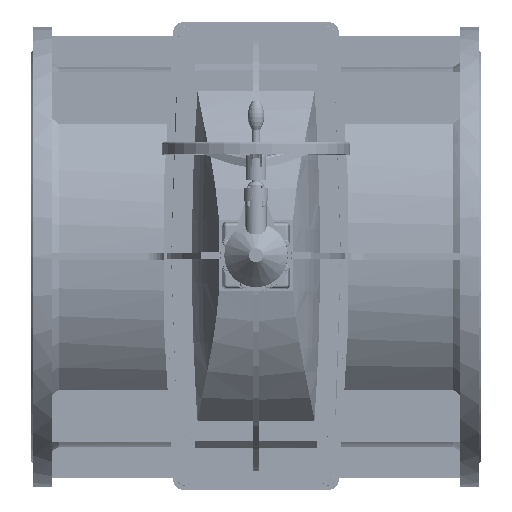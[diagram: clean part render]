
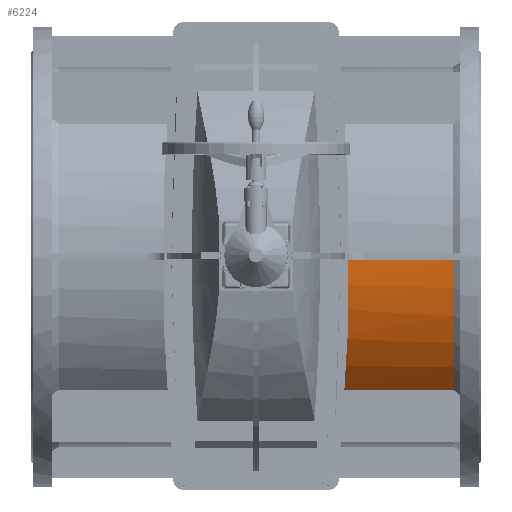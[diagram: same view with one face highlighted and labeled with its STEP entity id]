
A CAD part, top view. The second image highlights one B-rep face of the part: STEP entity #6224.
In plain terms, the highlighted cylindrical face has radius 465.5 mm (diameter 931 mm), a partial arc.
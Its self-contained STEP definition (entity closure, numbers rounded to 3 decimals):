
#6224=ADVANCED_FACE('',(#10419),#10421,.T.);
#10419=FACE_BOUND('',#10420,.T.);
#10420=EDGE_LOOP('',(#27407,#27408,#27409,#27410));
#10421=CYLINDRICAL_SURFACE('',#10422,465.5);
#10422=AXIS2_PLACEMENT_3D('',#10423,#10424,#10425);
#10423=CARTESIAN_POINT('',(498.5,0.,0.));
#10424=DIRECTION('',(-1.,0.,0.));
#10425=DIRECTION('',(0.,1.,0.));
#27407=ORIENTED_EDGE('',*,*,#35328,.F.);
#27408=ORIENTED_EDGE('',*,*,#35425,.T.);
#27409=ORIENTED_EDGE('',*,*,#35426,.F.);
#27410=ORIENTED_EDGE('',*,*,#35427,.T.);
#35328=EDGE_CURVE('',#39199,#39201,#39202,.T.);
#35425=EDGE_CURVE('',#39199,#39356,#39358,.T.);
#35426=EDGE_CURVE('',#39359,#39356,#39360,.F.);
#35427=EDGE_CURVE('',#39359,#39201,#39361,.F.);
#39199=VERTEX_POINT('',#46147);
#39201=VERTEX_POINT('',#46158);
#39202=LINE('',#46159,#46160);
#39356=VERTEX_POINT('',#46699);
#39358=CIRCLE('',#46710,465.5);
#39359=VERTEX_POINT('',#46714);
#39360=LINE('',#46715,#46716);
#39361=B_SPLINE_CURVE_WITH_KNOTS('',3,
(#46718,#46719,#46720,#46721,#46722,#46723,#46724,#46725,#46726,#46727,#46728,#46729,
#46730,#46731,#46732,#46733,#46734,#46735,#46736,#46737,#46738,#46739,#46740,#46741,
#46742,#46743,#46744,#46745,#46746,#46747,#46748,#46749,#46750,#46751,#46752,#46753,
#46754,#46755,#46756,#46757,#46758,#46759),
.UNSPECIFIED.,.F.,.F.,
(4,1,1,1,1,1,1,1,1,1,1,1,1,1,1,1,1,1,1,1,1,1,1,1,1,1,1,1,1,1,1,1,1,1,1,1,1,1,1,4),
(0.,0.015,0.03,0.045,0.066,
0.098,0.143,0.186,0.223,0.253,
0.284,0.329,0.375,0.423,0.456,
0.487,0.515,0.543,0.571,0.599,
0.626,0.653,0.679,0.704,0.729,
0.753,0.776,0.798,0.818,0.838,
0.856,0.874,0.895,0.916,0.936,
0.949,0.963,0.975,0.988,1.),
.UNSPECIFIED.);
#46147=CARTESIAN_POINT('',(483.,-325.247,333.024));
#46158=CARTESIAN_POINT('',(147.387,-325.247,333.024));
#46159=CARTESIAN_POINT('',(483.,-325.247,333.024));
#46160=VECTOR('',#46161,1.);
#46161=DIRECTION('',(-1.,0.,0.));
#46699=CARTESIAN_POINT('',(483.,-7.75,465.435));
#46710=AXIS2_PLACEMENT_3D('',#46711,#46712,#46713);
#46711=CARTESIAN_POINT('',(483.,0.,0.));
#46712=DIRECTION('',(-1.,0.,0.));
#46713=DIRECTION('',(0.,-0.699,0.715));
#46714=CARTESIAN_POINT('',(166.994,-7.75,465.435));
#46715=CARTESIAN_POINT('',(483.,-7.75,465.435));
#46716=VECTOR('',#46717,1.);
#46717=DIRECTION('',(-1.,0.,0.));
#46718=CARTESIAN_POINT('',(147.387,-325.247,333.024));
#46719=CARTESIAN_POINT('',(147.533,-324.014,334.228));
#46720=CARTESIAN_POINT('',(147.827,-321.514,336.642));
#46721=CARTESIAN_POINT('',(148.273,-317.692,340.252));
#46722=CARTESIAN_POINT('',(148.781,-313.275,344.329));
#46723=CARTESIAN_POINT('',(149.458,-307.306,349.69));
#46724=CARTESIAN_POINT('',(150.42,-298.625,357.176));
#46725=CARTESIAN_POINT('',(151.59,-287.714,366.047));
#46726=CARTESIAN_POINT('',(152.788,-276.083,374.88));
#46727=CARTESIAN_POINT('',(153.83,-265.563,382.378));
#46728=CARTESIAN_POINT('',(154.746,-255.991,388.842));
#46729=CARTESIAN_POINT('',(155.722,-245.443,395.613));
#46730=CARTESIAN_POINT('',(156.816,-233.097,403.041));
#46731=CARTESIAN_POINT('',(158.003,-218.911,410.923));
#46732=CARTESIAN_POINT('',(159.045,-205.672,417.68));
#46733=CARTESIAN_POINT('',(159.921,-193.85,423.267));
#46734=CARTESIAN_POINT('',(160.62,-183.918,427.669));
#46735=CARTESIAN_POINT('',(161.255,-174.451,431.613));
#46736=CARTESIAN_POINT('',(161.843,-165.211,435.233));
#46737=CARTESIAN_POINT('',(162.402,-155.955,438.635));
#46738=CARTESIAN_POINT('',(162.926,-146.752,441.798));
#46739=CARTESIAN_POINT('',(163.415,-137.613,444.728));
#46740=CARTESIAN_POINT('',(163.868,-128.614,447.412));
#46741=CARTESIAN_POINT('',(164.283,-119.763,449.86));
#46742=CARTESIAN_POINT('',(164.66,-111.138,452.067));
#46743=CARTESIAN_POINT('',(165.003,-102.679,454.061));
#46744=CARTESIAN_POINT('',(165.31,-94.465,455.839));
#46745=CARTESIAN_POINT('',(165.583,-86.503,457.415));
#46746=CARTESIAN_POINT('',(165.821,-78.936,458.779));
#46747=CARTESIAN_POINT('',(166.028,-71.699,459.964));
#46748=CARTESIAN_POINT('',(166.206,-64.865,460.975));
#46749=CARTESIAN_POINT('',(166.358,-58.369,461.84));
#46750=CARTESIAN_POINT('',(166.499,-51.676,462.64));
#46751=CARTESIAN_POINT('',(166.627,-44.71,463.368));
#46752=CARTESIAN_POINT('',(166.741,-37.469,464.008));
#46753=CARTESIAN_POINT('',(166.822,-31.142,464.47));
#46754=CARTESIAN_POINT('',(166.881,-25.664,464.8));
#46755=CARTESIAN_POINT('',(166.923,-21.002,465.034));
#46756=CARTESIAN_POINT('',(166.955,-16.474,465.215));
#46757=CARTESIAN_POINT('',(166.979,-12.08,465.35));
#46758=CARTESIAN_POINT('',(166.99,-9.182,465.412));
#46759=CARTESIAN_POINT('',(166.994,-7.75,465.435));
